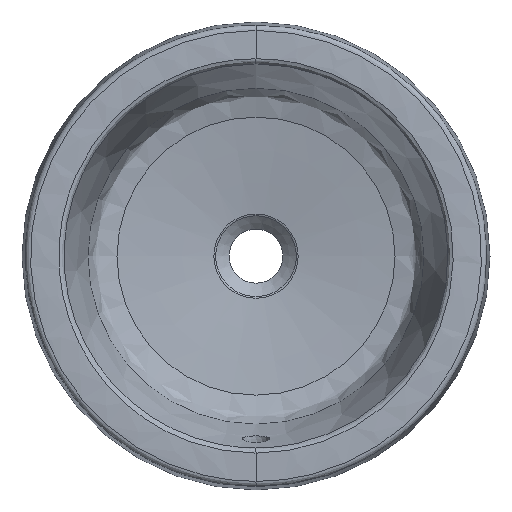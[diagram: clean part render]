
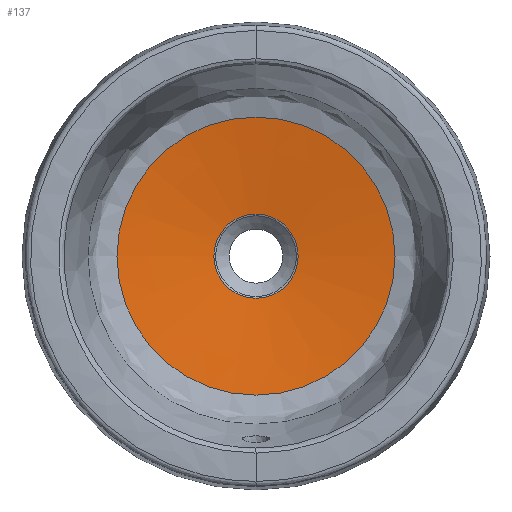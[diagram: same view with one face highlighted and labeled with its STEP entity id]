
A CAD part, top view. The second image highlights one B-rep face of the part: STEP entity #137.
In plain terms, the highlighted conical face has half-angle 82.292 degrees and reference radius 119.113 mm.
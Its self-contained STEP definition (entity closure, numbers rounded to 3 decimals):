
#83=FACE_BOUND('',#194,.T.);
#84=FACE_BOUND('',#195,.T.);
#115=CIRCLE('',#445,123.195);
#116=CIRCLE('',#446,37.313);
#137=ADVANCED_FACE('',(#83,#84),#157,.F.);
#157=CONICAL_SURFACE('',#447,119.113,82.292);
#194=EDGE_LOOP('',(#268));
#195=EDGE_LOOP('',(#269));
#268=ORIENTED_EDGE('',*,*,#382,.T.);
#269=ORIENTED_EDGE('',*,*,#383,.T.);
#339=VERTEX_POINT('',#2970);
#340=VERTEX_POINT('',#2972);
#382=EDGE_CURVE('',#339,#339,#115,.T.);
#383=EDGE_CURVE('',#340,#340,#116,.T.);
#445=AXIS2_PLACEMENT_3D('',#2969,#506,#507);
#446=AXIS2_PLACEMENT_3D('',#2971,#508,#509);
#447=AXIS2_PLACEMENT_3D('',#2973,#510,#511);
#506=DIRECTION('',(0.,0.,1.));
#507=DIRECTION('',(1.,0.,0.));
#508=DIRECTION('',(0.,0.,-1.));
#509=DIRECTION('',(-1.,0.,0.));
#510=DIRECTION('',(0.,0.,1.));
#511=DIRECTION('',(-1.,0.,0.));
#2969=CARTESIAN_POINT('',(0.,0.,-111.354));
#2970=CARTESIAN_POINT('',(123.195,0.,-111.354));
#2971=CARTESIAN_POINT('',(0.,0.,-122.979));
#2972=CARTESIAN_POINT('',(-37.313,0.,-122.979));
#2973=CARTESIAN_POINT('',(0.,0.,-111.907));
